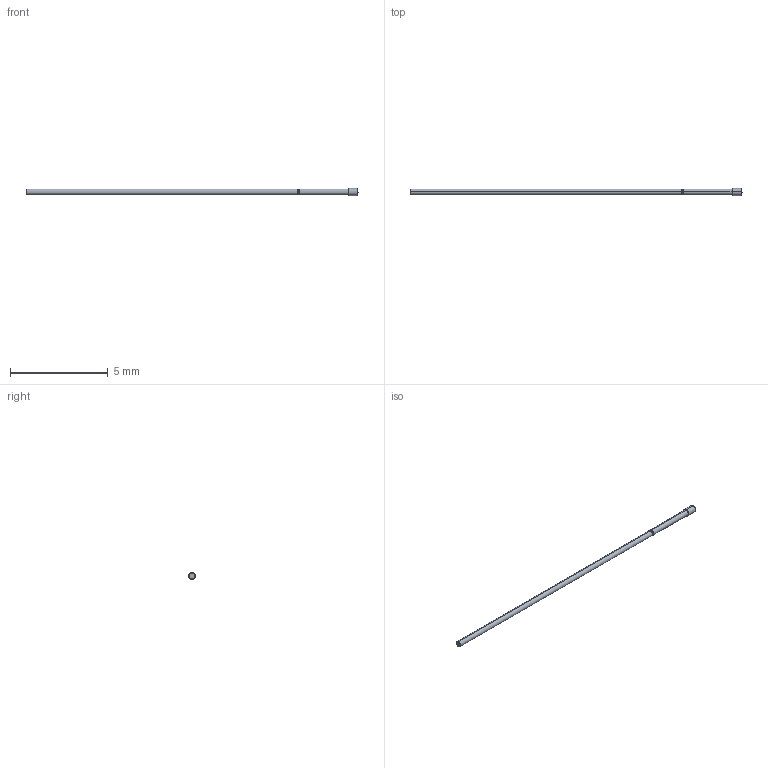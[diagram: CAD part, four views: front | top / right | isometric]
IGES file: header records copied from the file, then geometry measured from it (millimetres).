
Start section: SolidWorks IGES file using analytic representation for surfaces
Global section: file name: Z:\probe solid model mockups\Solidworks models\MEP-22B IGS files\MEP-22B Full.IGS; native system: SolidWorks 2006 by SolidWorks Corporation; preprocessor: SolidWorks 2006 by SolidWorks Corporation; author: tsakatani; date: 071219.154448; units: inch
Bounding box: 16.99 x 0.38 x 0.38 mm (x, y, z)
Surface area: 16.7 mm2 (no closed solid volume)
Topology: 0 solids, 0 shells, 17 faces, 136 edges, 134 vertices
Faces by surface type: revolution 10, bspline 7
